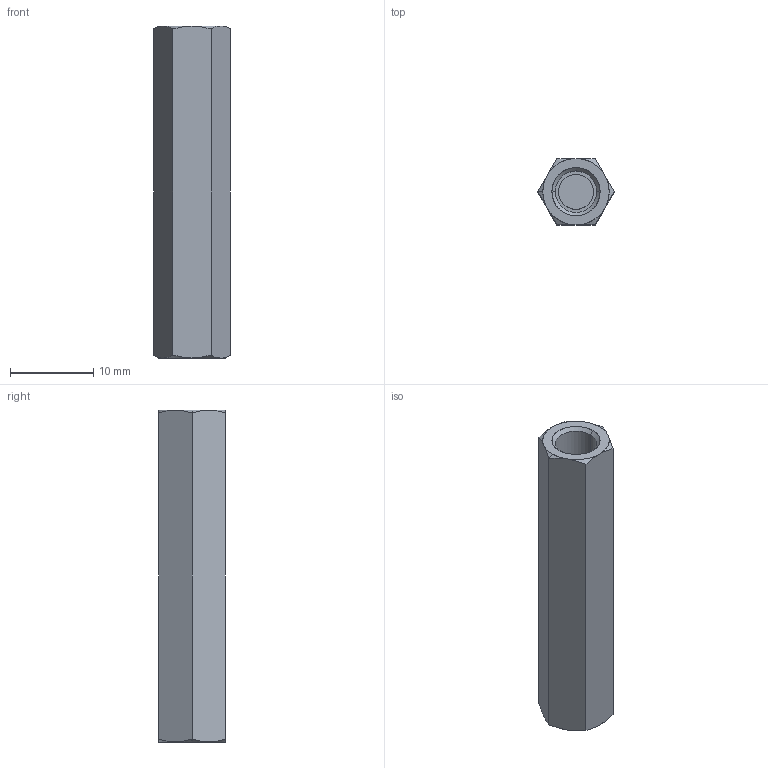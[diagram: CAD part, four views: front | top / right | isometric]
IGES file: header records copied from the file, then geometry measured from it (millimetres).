
Start section: SolidWorks IGES file using analytic representation for surfaces
Global section: file name: C:\Users\ianosborn\Desktop\N0503.NP_v2\N0503.NP_v2_20250227_IGES\N0503.050-040-NP.igs; native system: SolidWorks 2019; preprocessor: SolidWorks 2019; author: IanOsborn; date: 250227.144512; units: millimetre
Bounding box: 9.24 x 8 x 40 mm (x, y, z)
Surface area: 1555.2 mm2 (no closed solid volume)
Topology: 0 solids, 0 shells, 39 faces, 478 edges, 476 vertices
Faces by surface type: revolution 28, bspline 11
